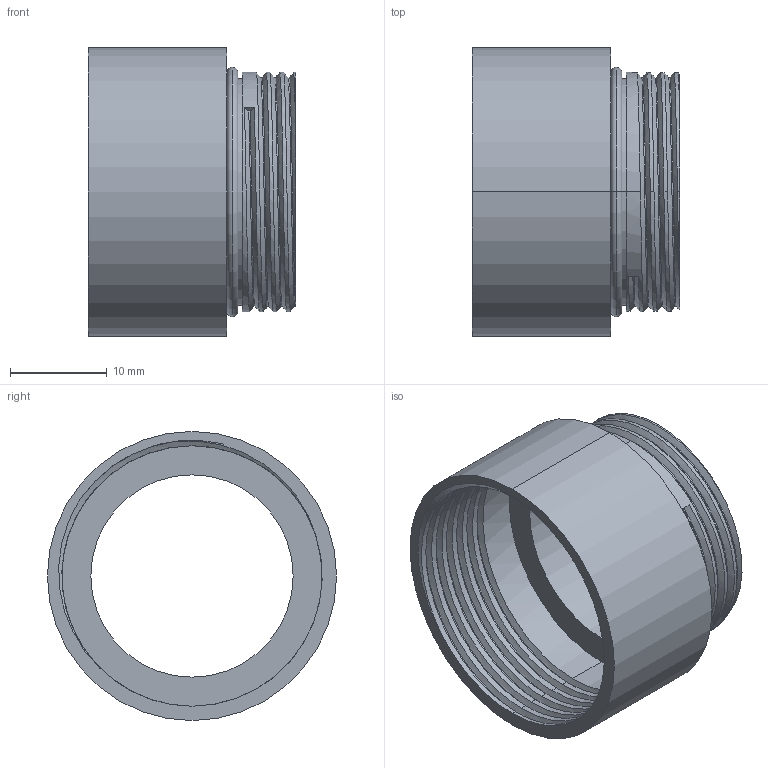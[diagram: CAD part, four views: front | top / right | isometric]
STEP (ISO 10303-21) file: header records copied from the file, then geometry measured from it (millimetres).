
FILE_DESCRIPTION (( 'STEP AP214' ), '1' );
FILE_NAME ('M25-PG21.STEP', '2006-08-15T14:06:18', ( 'Mencom User' ), ( 'Mencom Corporation' ), 'SwSTEP 2.0', 'SolidWorks 2006104', '' );
FILE_SCHEMA (( 'AUTOMOTIVE_DESIGN' ));
Length unit declared in the file: inch
Products named in the file (1): M25-PG21
Bounding box: 21.44 x 29.93 x 29.93 mm (x, y, z)
Volume: 2923.1 mm3; surface area: 5102.3 mm2
Topology: 2 solids, 2 shells, 47 faces, 119 edges, 78 vertices
Faces by surface type: cylinder 27, plane 8, torus 6, bspline 6
Entity records: 4179 total; most frequent: CARTESIAN_POINT 3085, ORIENTED_EDGE 238, DIRECTION 185, EDGE_CURVE 119, VERTEX_POINT 78, AXIS2_PLACEMENT_3D 76, EDGE_LOOP 53, FACE_OUTER_BOUND 47
